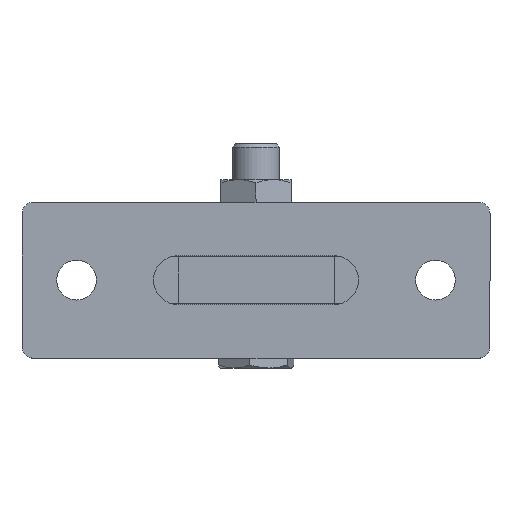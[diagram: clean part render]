
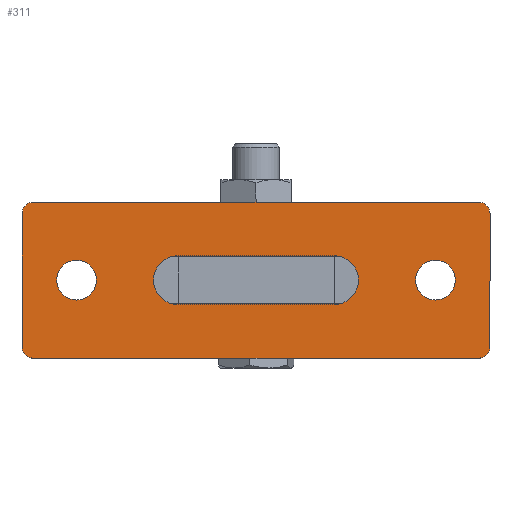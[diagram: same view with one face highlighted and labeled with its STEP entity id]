
A CAD part, top view. The second image highlights one B-rep face of the part: STEP entity #311.
In plain terms, the highlighted planar face has unit normal (0, 0, 1).
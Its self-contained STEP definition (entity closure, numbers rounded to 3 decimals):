
#311 = ADVANCED_FACE ( 'NONE', ( #1710, #1709, #1708, #1707 ), #1706, .T. ) ;
#312 = EDGE_LOOP ( 'NONE', ( #313, #317, #320, #395, #420, #423, #426, #429 ) ) ;
#313 = ORIENTED_EDGE ( 'NONE', *, *, #314, .T. ) ;
#314 = EDGE_CURVE ( 'NONE', #315, #316, #1705, .T. ) ;
#315 = VERTEX_POINT ( 'NONE', #1697 ) ;
#316 = VERTEX_POINT ( 'NONE', #1696 ) ;
#317 = ORIENTED_EDGE ( 'NONE', *, *, #318, .T. ) ;
#318 = EDGE_CURVE ( 'NONE', #316, #319, #1762, .T. ) ;
#319 = VERTEX_POINT ( 'NONE', #1757 ) ;
#320 = ORIENTED_EDGE ( 'NONE', *, *, #321, .T. ) ;
#321 = EDGE_CURVE ( 'NONE', #319, #322, #1756, .T. ) ;
#322 = VERTEX_POINT ( 'NONE', #1752 ) ;
#335 = VERTEX_POINT ( 'NONE', #1786 ) ;
#337 = EDGE_CURVE ( 'NONE', #335, #432, #1785, .T. ) ;
#346 = EDGE_CURVE ( 'NONE', #347, #348, #1768, .T. ) ;
#347 = VERTEX_POINT ( 'NONE', #1822 ) ;
#348 = VERTEX_POINT ( 'NONE', #1821 ) ;
#371 = ORIENTED_EDGE ( 'NONE', *, *, #372, .T. ) ;
#372 = EDGE_CURVE ( 'NONE', #348, #347, #1851, .T. ) ;
#373 = ORIENTED_EDGE ( 'NONE', *, *, #346, .T. ) ;
#374 = EDGE_LOOP ( 'NONE', ( #375, #376 ) ) ;
#375 = ORIENTED_EDGE ( 'NONE', *, *, #461, .F. ) ;
#376 = ORIENTED_EDGE ( 'NONE', *, *, #377, .F. ) ;
#377 = EDGE_CURVE ( 'NONE', #463, #462, #1846, .T. ) ;
#382 = ORIENTED_EDGE ( 'NONE', *, *, #383, .F. ) ;
#383 = EDGE_CURVE ( 'NONE', #384, #335, #1828, .T. ) ;
#384 = VERTEX_POINT ( 'NONE', #4531 ) ;
#385 = ORIENTED_EDGE ( 'NONE', *, *, #386, .F. ) ;
#386 = EDGE_CURVE ( 'NONE', #387, #384, #4564, .T. ) ;
#387 = VERTEX_POINT ( 'NONE', #4565 ) ;
#388 = ORIENTED_EDGE ( 'NONE', *, *, #389, .F. ) ;
#389 = EDGE_CURVE ( 'NONE', #390, #387, #4504, .T. ) ;
#390 = VERTEX_POINT ( 'NONE', #4505 ) ;
#391 = ORIENTED_EDGE ( 'NONE', *, *, #392, .F. ) ;
#392 = EDGE_CURVE ( 'NONE', #432, #390, #4450, .T. ) ;
#393 = ORIENTED_EDGE ( 'NONE', *, *, #337, .F. ) ;
#394 = EDGE_LOOP ( 'NONE', ( #371, #373 ) ) ;
#395 = ORIENTED_EDGE ( 'NONE', *, *, #396, .T. ) ;
#396 = EDGE_CURVE ( 'NONE', #322, #419, #4563, .T. ) ;
#419 = VERTEX_POINT ( 'NONE', #4406 ) ;
#420 = ORIENTED_EDGE ( 'NONE', *, *, #421, .T. ) ;
#421 = EDGE_CURVE ( 'NONE', #419, #422, #4556, .T. ) ;
#422 = VERTEX_POINT ( 'NONE', #4552 ) ;
#423 = ORIENTED_EDGE ( 'NONE', *, *, #424, .T. ) ;
#424 = EDGE_CURVE ( 'NONE', #422, #425, #4551, .T. ) ;
#425 = VERTEX_POINT ( 'NONE', #4546 ) ;
#426 = ORIENTED_EDGE ( 'NONE', *, *, #427, .T. ) ;
#427 = EDGE_CURVE ( 'NONE', #425, #428, #4545, .T. ) ;
#428 = VERTEX_POINT ( 'NONE', #4541 ) ;
#429 = ORIENTED_EDGE ( 'NONE', *, *, #430, .T. ) ;
#430 = EDGE_CURVE ( 'NONE', #428, #315, #4540, .T. ) ;
#431 = EDGE_LOOP ( 'NONE', ( #382, #385, #388, #391, #393 ) ) ;
#432 = VERTEX_POINT ( 'NONE', #4535 ) ;
#461 = EDGE_CURVE ( 'NONE', #462, #463, #4471, .T. ) ;
#462 = VERTEX_POINT ( 'NONE', #4467 ) ;
#463 = VERTEX_POINT ( 'NONE', #4466 ) ;
#1696 = CARTESIAN_POINT ( 'NONE',  ( -60., -17., 10. ) ) ;
#1697 = CARTESIAN_POINT ( 'NONE',  ( -60., 17., 10. ) ) ;
#1698 = DIRECTION ( 'NONE',  ( 0., -1., 0. ) ) ;
#1699 = VECTOR ( 'NONE', #1698, 1000. ) ;
#1700 = CARTESIAN_POINT ( 'NONE',  ( -60., 20., 10. ) ) ;
#1701 = DIRECTION ( 'NONE',  ( 1., 0., 0. ) ) ;
#1702 = DIRECTION ( 'NONE',  ( 0., 0., 1. ) ) ;
#1703 = CARTESIAN_POINT ( 'NONE',  ( -60., -20., 10. ) ) ;
#1704 = AXIS2_PLACEMENT_3D ( 'NONE', #1703, #1702, #1701 ) ;
#1705 = LINE ( 'NONE', #1700, #1699 ) ;
#1706 = PLANE ( 'NONE',  #1704 ) ;
#1707 = FACE_BOUND ( 'NONE', #374, .T. ) ;
#1708 = FACE_BOUND ( 'NONE', #394, .T. ) ;
#1709 = FACE_BOUND ( 'NONE', #431, .T. ) ;
#1710 = FACE_OUTER_BOUND ( 'NONE', #312, .T. ) ;
#1752 = CARTESIAN_POINT ( 'NONE',  ( 57., -20., 10. ) ) ;
#1753 = DIRECTION ( 'NONE',  ( 1., 0., 0. ) ) ;
#1754 = VECTOR ( 'NONE', #1753, 1000. ) ;
#1755 = CARTESIAN_POINT ( 'NONE',  ( -60., -20., 10. ) ) ;
#1756 = LINE ( 'NONE', #1755, #1754 ) ;
#1757 = CARTESIAN_POINT ( 'NONE',  ( -57., -20., 10. ) ) ;
#1758 = DIRECTION ( 'NONE',  ( 1., 0., 0. ) ) ;
#1759 = DIRECTION ( 'NONE',  ( 0., 0., 1. ) ) ;
#1760 = CARTESIAN_POINT ( 'NONE',  ( -57., -17., 10. ) ) ;
#1761 = AXIS2_PLACEMENT_3D ( 'NONE', #1760, #1759, #1758 ) ;
#1762 = CIRCLE ( 'NONE', #1761, 3. ) ;
#1763 = CARTESIAN_POINT ( 'NONE',  ( 46., 0., 10. ) ) ;
#1768 = CIRCLE ( 'NONE', #1825, 5.1 ) ;
#1781 = DIRECTION ( 'NONE',  ( -1., 0., 0. ) ) ;
#1782 = DIRECTION ( 'NONE',  ( 0., 0., 1. ) ) ;
#1783 = CARTESIAN_POINT ( 'NONE',  ( 20., 0., 10. ) ) ;
#1784 = AXIS2_PLACEMENT_3D ( 'NONE', #1783, #1782, #1781 ) ;
#1785 = CIRCLE ( 'NONE', #1784, 6.25 ) ;
#1786 = CARTESIAN_POINT ( 'NONE',  ( 26.25, 0., 10. ) ) ;
#1821 = CARTESIAN_POINT ( 'NONE',  ( 40.9, 0., 10. ) ) ;
#1822 = CARTESIAN_POINT ( 'NONE',  ( 51.1, 0., 10. ) ) ;
#1823 = DIRECTION ( 'NONE',  ( 1., 0., 0. ) ) ;
#1824 = DIRECTION ( 'NONE',  ( 0., 0., -1. ) ) ;
#1825 = AXIS2_PLACEMENT_3D ( 'NONE', #1763, #1824, #1823 ) ;
#1826 = CARTESIAN_POINT ( 'NONE',  ( 20., 0., 10. ) ) ;
#1827 = AXIS2_PLACEMENT_3D ( 'NONE', #1826, #4451, #4532 ) ;
#1828 = CIRCLE ( 'NONE', #1827, 6.25 ) ;
#1842 = DIRECTION ( 'NONE',  ( 1., 0., 0. ) ) ;
#1843 = DIRECTION ( 'NONE',  ( 0., 0., 1. ) ) ;
#1844 = CARTESIAN_POINT ( 'NONE',  ( -46., 0., 10. ) ) ;
#1845 = AXIS2_PLACEMENT_3D ( 'NONE', #1844, #1843, #1842 ) ;
#1846 = CIRCLE ( 'NONE', #1845, 5.1 ) ;
#1847 = DIRECTION ( 'NONE',  ( 1., 0., 0. ) ) ;
#1848 = DIRECTION ( 'NONE',  ( 0., 0., -1. ) ) ;
#1849 = CARTESIAN_POINT ( 'NONE',  ( 46., 0., 10. ) ) ;
#1850 = AXIS2_PLACEMENT_3D ( 'NONE', #1849, #1848, #1847 ) ;
#1851 = CIRCLE ( 'NONE', #1850, 5.1 ) ;
#4406 = CARTESIAN_POINT ( 'NONE',  ( 60., -17., 10. ) ) ;
#4422 = VECTOR ( 'NONE', #4533, 1000. ) ;
#4448 = DIRECTION ( 'NONE',  ( -1., 0., 0. ) ) ;
#4449 = CARTESIAN_POINT ( 'NONE',  ( -20., 6.25, 10. ) ) ;
#4450 = LINE ( 'NONE', #4449, #4453 ) ;
#4451 = DIRECTION ( 'NONE',  ( 0., 0., 1. ) ) ;
#4452 = CARTESIAN_POINT ( 'NONE',  ( 57., -17., 10. ) ) ;
#4453 = VECTOR ( 'NONE', #4448, 1000. ) ;
#4454 = CARTESIAN_POINT ( 'NONE',  ( -20., -6.25, 10. ) ) ;
#4455 = DIRECTION ( 'NONE',  ( 1., 0., 0. ) ) ;
#4456 = DIRECTION ( 'NONE',  ( 0., 0., 1. ) ) ;
#4457 = CARTESIAN_POINT ( 'NONE',  ( -20., 0., 10. ) ) ;
#4458 = AXIS2_PLACEMENT_3D ( 'NONE', #4457, #4456, #4455 ) ;
#4466 = CARTESIAN_POINT ( 'NONE',  ( -40.9, 0., 10. ) ) ;
#4467 = CARTESIAN_POINT ( 'NONE',  ( -51.1, 0., 10. ) ) ;
#4468 = DIRECTION ( 'NONE',  ( 1., 0., 0. ) ) ;
#4469 = DIRECTION ( 'NONE',  ( 0., 0., 1. ) ) ;
#4470 = AXIS2_PLACEMENT_3D ( 'NONE', #4570, #4469, #4468 ) ;
#4471 = CIRCLE ( 'NONE', #4470, 5.1 ) ;
#4504 = CIRCLE ( 'NONE', #4458, 6.25 ) ;
#4505 = CARTESIAN_POINT ( 'NONE',  ( -20., 6.25, 10. ) ) ;
#4531 = CARTESIAN_POINT ( 'NONE',  ( 20., -6.25, 10. ) ) ;
#4532 = DIRECTION ( 'NONE',  ( -1., 0., 0. ) ) ;
#4533 = DIRECTION ( 'NONE',  ( 1., 0., 0. ) ) ;
#4535 = CARTESIAN_POINT ( 'NONE',  ( 20., 6.25, 10. ) ) ;
#4536 = DIRECTION ( 'NONE',  ( 1., 0., 0. ) ) ;
#4537 = DIRECTION ( 'NONE',  ( 0., 0., 1. ) ) ;
#4538 = CARTESIAN_POINT ( 'NONE',  ( -57., 17., 10. ) ) ;
#4539 = AXIS2_PLACEMENT_3D ( 'NONE', #4538, #4537, #4536 ) ;
#4540 = CIRCLE ( 'NONE', #4539, 3. ) ;
#4541 = CARTESIAN_POINT ( 'NONE',  ( -57., 20., 10. ) ) ;
#4542 = DIRECTION ( 'NONE',  ( -1., 0., 0. ) ) ;
#4543 = VECTOR ( 'NONE', #4542, 1000. ) ;
#4544 = CARTESIAN_POINT ( 'NONE',  ( -60., 20., 10. ) ) ;
#4545 = LINE ( 'NONE', #4544, #4543 ) ;
#4546 = CARTESIAN_POINT ( 'NONE',  ( 57., 20., 10. ) ) ;
#4547 = DIRECTION ( 'NONE',  ( 1., 0., 0. ) ) ;
#4548 = DIRECTION ( 'NONE',  ( 0., 0., 1. ) ) ;
#4549 = CARTESIAN_POINT ( 'NONE',  ( 57., 17., 10. ) ) ;
#4550 = AXIS2_PLACEMENT_3D ( 'NONE', #4549, #4548, #4547 ) ;
#4551 = CIRCLE ( 'NONE', #4550, 3. ) ;
#4552 = CARTESIAN_POINT ( 'NONE',  ( 60., 17., 10. ) ) ;
#4553 = DIRECTION ( 'NONE',  ( 0., 1., 0. ) ) ;
#4554 = VECTOR ( 'NONE', #4553, 1000. ) ;
#4555 = CARTESIAN_POINT ( 'NONE',  ( 60., 20., 10. ) ) ;
#4556 = LINE ( 'NONE', #4555, #4554 ) ;
#4560 = DIRECTION ( 'NONE',  ( 1., 0., 0. ) ) ;
#4561 = DIRECTION ( 'NONE',  ( 0., 0., 1. ) ) ;
#4562 = AXIS2_PLACEMENT_3D ( 'NONE', #4452, #4561, #4560 ) ;
#4563 = CIRCLE ( 'NONE', #4562, 3. ) ;
#4564 = LINE ( 'NONE', #4454, #4422 ) ;
#4565 = CARTESIAN_POINT ( 'NONE',  ( -20., -6.25, 10. ) ) ;
#4570 = CARTESIAN_POINT ( 'NONE',  ( -46., 0., 10. ) ) ;
